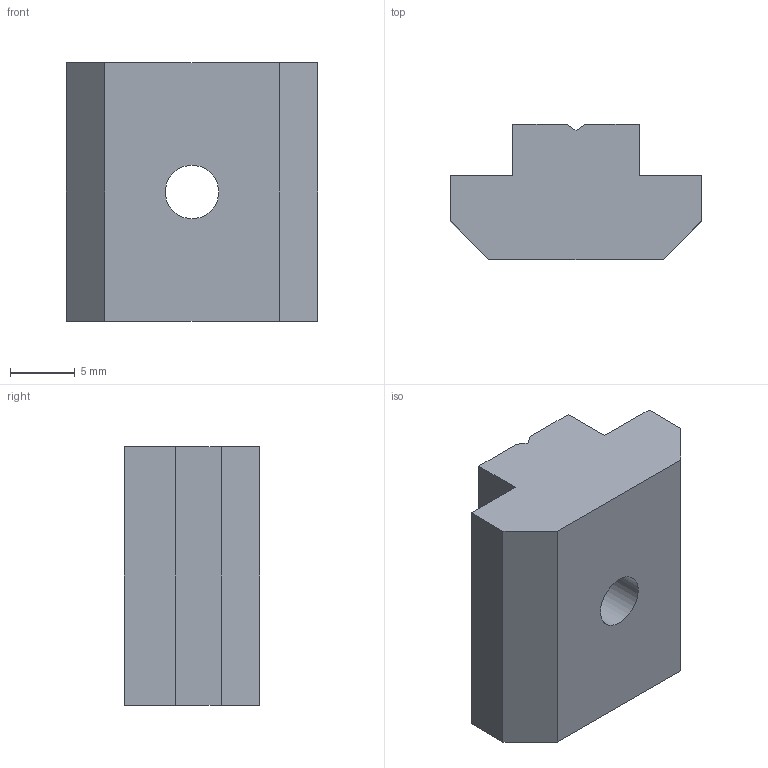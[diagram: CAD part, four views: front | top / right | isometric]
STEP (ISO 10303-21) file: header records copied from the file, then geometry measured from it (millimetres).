
FILE_DESCRIPTION((''),'2;1');
FILE_NAME('E:\catalogue and flyer\Profile catalogue 2015\Accessories JE info\Accessories-JE step file 31MAr16\JE-SB5-10.stp','2016-04-07T11:36:48',('h029'),(''),'Autodesk Inventor 11','Autodesk Inventor 11','');
FILE_SCHEMA(('AUTOMOTIVE_DESIGN { 1 0 10303 214 1 1 1 1 }'));
Length unit declared in the file: millimetre
Products named in the file (1): JE-SB5-10
Bounding box: 19.5 x 10.5 x 20 mm (x, y, z)
Volume: 2990.6 mm3; surface area: 1553.2 mm2
Topology: 1 solids, 1 shells, 20 faces, 53 edges, 34 vertices
Faces by surface type: plane 17, cone 2, bspline 1
Entity records: 640 total; most frequent: CARTESIAN_POINT 122, ORIENTED_EDGE 102, DIRECTION 100, EDGE_CURVE 51, VECTOR 42, LINE 42, VERTEX_POINT 33, AXIS2_PLACEMENT_3D 29
